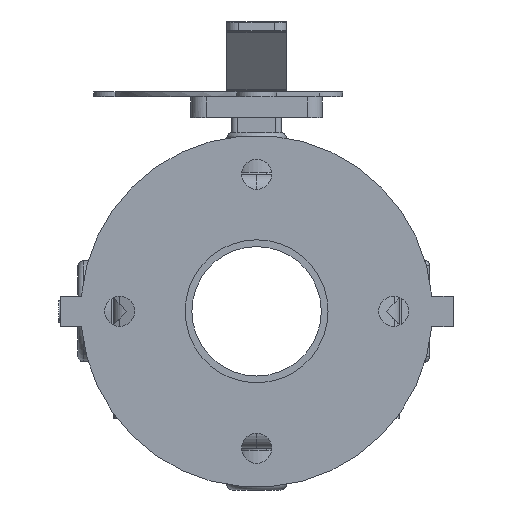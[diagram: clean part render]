
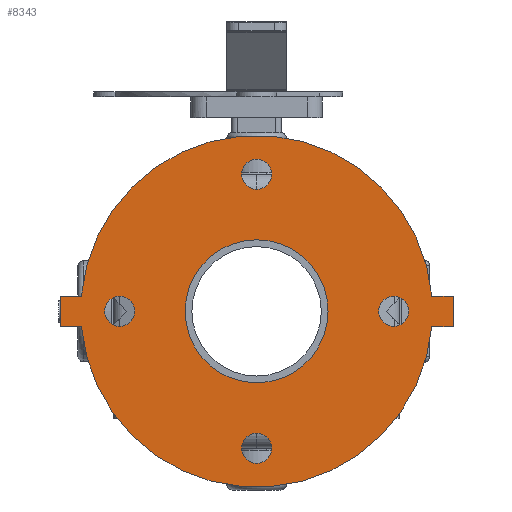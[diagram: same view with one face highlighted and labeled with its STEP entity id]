
A CAD part, front view. The second image highlights one B-rep face of the part: STEP entity #8343.
In plain terms, the highlighted planar face has unit normal (0, -1, 0) as drawn and (0, 0, -1) by its records, which use the part's own axes.
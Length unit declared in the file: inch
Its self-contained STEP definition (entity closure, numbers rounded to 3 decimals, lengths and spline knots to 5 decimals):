
#321=FACE_BOUND('',#1114,.T.);
#322=FACE_BOUND('',#1115,.T.);
#323=FACE_BOUND('',#1116,.T.);
#324=FACE_BOUND('',#1117,.T.);
#325=FACE_BOUND('',#1118,.T.);
#415=PLANE('',#9029);
#641=FACE_OUTER_BOUND('',#1113,.T.);
#1113=EDGE_LOOP('',(#5331,#5332,#5333,#5334,#5335,#5336,#5337,#5338));
#1114=EDGE_LOOP('',(#5339));
#1115=EDGE_LOOP('',(#5340));
#1116=EDGE_LOOP('',(#5341));
#1117=EDGE_LOOP('',(#5342));
#1118=EDGE_LOOP('',(#5343));
#1662=LINE('',#12555,#2241);
#1665=LINE('',#12561,#2244);
#1668=LINE('',#12566,#2247);
#1670=LINE('',#12571,#2249);
#1674=LINE('',#12578,#2253);
#1676=LINE('',#12581,#2255);
#2241=VECTOR('',#10031,0.3937);
#2244=VECTOR('',#10036,0.3937);
#2247=VECTOR('',#10041,0.3937);
#2249=VECTOR('',#10045,0.3937);
#2253=VECTOR('',#10051,0.3937);
#2255=VECTOR('',#10055,0.3937);
#2812=CIRCLE('',#9003,0.315);
#2814=CIRCLE('',#9006,0.315);
#2816=CIRCLE('',#9009,0.315);
#2818=CIRCLE('',#9012,0.315);
#2819=CIRCLE('',#9014,1.5);
#2821=CIRCLE('',#9017,3.69);
#2824=CIRCLE('',#9021,3.69);
#3273=VERTEX_POINT('',#12508);
#3275=VERTEX_POINT('',#12514);
#3277=VERTEX_POINT('',#12520);
#3279=VERTEX_POINT('',#12526);
#3280=VERTEX_POINT('',#12530);
#3282=VERTEX_POINT('',#12536);
#3284=VERTEX_POINT('',#12539);
#3286=VERTEX_POINT('',#12545);
#3289=VERTEX_POINT('',#12550);
#3290=VERTEX_POINT('',#12554);
#3292=VERTEX_POINT('',#12560);
#3294=VERTEX_POINT('',#12569);
#3295=VERTEX_POINT('',#12570);
#4064=EDGE_CURVE('',#3273,#3273,#2812,.T.);
#4067=EDGE_CURVE('',#3275,#3275,#2814,.T.);
#4070=EDGE_CURVE('',#3277,#3277,#2816,.T.);
#4073=EDGE_CURVE('',#3279,#3279,#2818,.T.);
#4074=EDGE_CURVE('',#3280,#3280,#2819,.T.);
#4078=EDGE_CURVE('',#3282,#3284,#2821,.T.);
#4084=EDGE_CURVE('',#3289,#3286,#2824,.T.);
#4085=EDGE_CURVE('',#3284,#3290,#1662,.T.);
#4088=EDGE_CURVE('',#3292,#3289,#1665,.T.);
#4091=EDGE_CURVE('',#3290,#3292,#1668,.T.);
#4093=EDGE_CURVE('',#3294,#3295,#1670,.T.);
#4097=EDGE_CURVE('',#3286,#3294,#1674,.T.);
#4099=EDGE_CURVE('',#3295,#3282,#1676,.T.);
#5331=ORIENTED_EDGE('',*,*,#4099,.F.);
#5332=ORIENTED_EDGE('',*,*,#4093,.F.);
#5333=ORIENTED_EDGE('',*,*,#4097,.F.);
#5334=ORIENTED_EDGE('',*,*,#4084,.F.);
#5335=ORIENTED_EDGE('',*,*,#4088,.F.);
#5336=ORIENTED_EDGE('',*,*,#4091,.F.);
#5337=ORIENTED_EDGE('',*,*,#4085,.F.);
#5338=ORIENTED_EDGE('',*,*,#4078,.F.);
#5339=ORIENTED_EDGE('',*,*,#4064,.T.);
#5340=ORIENTED_EDGE('',*,*,#4067,.T.);
#5341=ORIENTED_EDGE('',*,*,#4070,.T.);
#5342=ORIENTED_EDGE('',*,*,#4073,.T.);
#5343=ORIENTED_EDGE('',*,*,#4074,.T.);
#8343=ADVANCED_FACE('',(#641,#321,#322,#323,#324,#325),#415,.F.);
#9003=AXIS2_PLACEMENT_3D('',#12510,#9983,#9984);
#9006=AXIS2_PLACEMENT_3D('',#12516,#9990,#9991);
#9009=AXIS2_PLACEMENT_3D('',#12522,#9997,#9998);
#9012=AXIS2_PLACEMENT_3D('',#12528,#10004,#10005);
#9014=AXIS2_PLACEMENT_3D('',#12531,#10008,#10009);
#9017=AXIS2_PLACEMENT_3D('',#12540,#10016,#10017);
#9021=AXIS2_PLACEMENT_3D('',#12552,#10027,#10028);
#9029=AXIS2_PLACEMENT_3D('',#12584,#10059,#10060);
#9983=DIRECTION('center_axis',(0.,0.,1.));
#9984=DIRECTION('ref_axis',(-1.,0.,0.));
#9990=DIRECTION('center_axis',(0.,0.,1.));
#9991=DIRECTION('ref_axis',(0.,1.,0.));
#9997=DIRECTION('center_axis',(0.,0.,1.));
#9998=DIRECTION('ref_axis',(1.,0.,0.));
#10004=DIRECTION('center_axis',(0.,0.,1.));
#10005=DIRECTION('ref_axis',(0.,-1.,0.));
#10008=DIRECTION('center_axis',(0.,0.,1.));
#10009=DIRECTION('ref_axis',(0.,-1.,0.));
#10016=DIRECTION('center_axis',(0.,0.,1.));
#10017=DIRECTION('ref_axis',(0.,1.,0.));
#10027=DIRECTION('center_axis',(0.,0.,1.));
#10028=DIRECTION('ref_axis',(0.,1.,0.));
#10031=DIRECTION('',(0.,-1.,0.));
#10036=DIRECTION('',(0.,1.,0.));
#10041=DIRECTION('',(1.,0.,0.));
#10045=DIRECTION('',(-1.,0.,0.));
#10051=DIRECTION('',(0.,1.,0.));
#10055=DIRECTION('',(0.,-1.,0.));
#10059=DIRECTION('center_axis',(0.,0.,1.));
#10060=DIRECTION('ref_axis',(0.,1.,0.));
#12508=CARTESIAN_POINT('',(0.315,2.875,0.));
#12510=CARTESIAN_POINT('Origin',(0.,2.875,0.));
#12514=CARTESIAN_POINT('',(2.875,-0.315,0.));
#12516=CARTESIAN_POINT('Origin',(2.875,0.,0.));
#12520=CARTESIAN_POINT('',(-0.315,-2.875,0.));
#12522=CARTESIAN_POINT('Origin',(0.,-2.875,0.));
#12526=CARTESIAN_POINT('',(-2.875,0.315,0.));
#12528=CARTESIAN_POINT('Origin',(-2.875,0.,0.));
#12530=CARTESIAN_POINT('',(0.,1.5,0.));
#12531=CARTESIAN_POINT('Origin',(0.,0.,0.));
#12536=CARTESIAN_POINT('',(-0.32,3.6761,0.));
#12539=CARTESIAN_POINT('',(-0.32,-3.6761,0.));
#12540=CARTESIAN_POINT('Origin',(0.,0.,0.));
#12545=CARTESIAN_POINT('',(0.32,3.6761,0.));
#12550=CARTESIAN_POINT('',(0.32,-3.6761,0.));
#12552=CARTESIAN_POINT('Origin',(0.,0.,0.));
#12554=CARTESIAN_POINT('',(-0.32,-4.125,0.));
#12555=CARTESIAN_POINT('',(-0.32,-3.6761,0.));
#12560=CARTESIAN_POINT('',(0.32,-4.125,0.));
#12561=CARTESIAN_POINT('',(0.32,-4.125,0.));
#12566=CARTESIAN_POINT('',(-0.32,-4.125,0.));
#12569=CARTESIAN_POINT('',(0.32,4.125,0.));
#12570=CARTESIAN_POINT('',(-0.32,4.125,0.));
#12571=CARTESIAN_POINT('',(0.32,4.125,0.));
#12578=CARTESIAN_POINT('',(0.32,3.6761,0.));
#12581=CARTESIAN_POINT('',(-0.32,4.125,0.));
#12584=CARTESIAN_POINT('Origin',(0.,3.92048,
0.));
